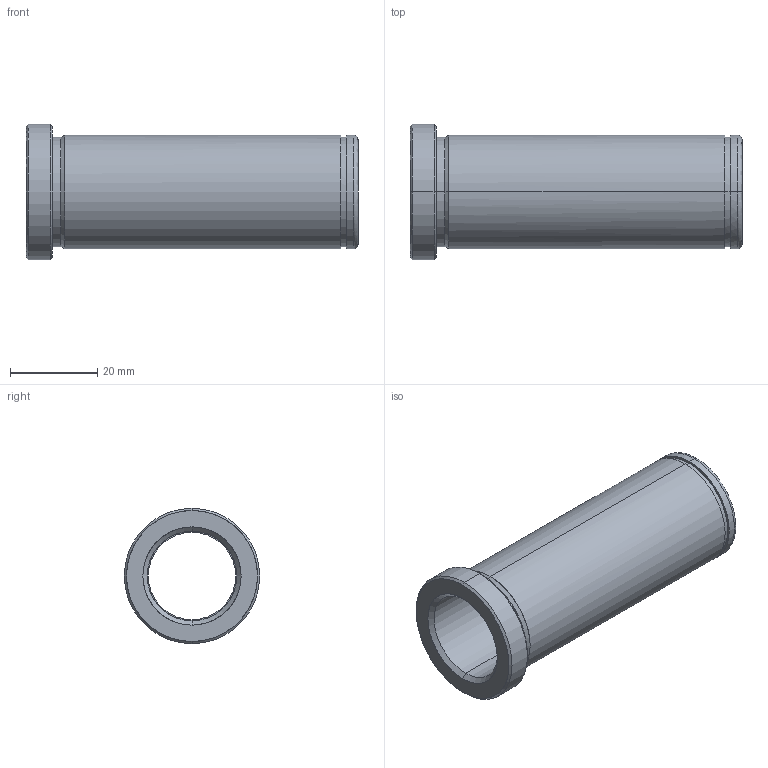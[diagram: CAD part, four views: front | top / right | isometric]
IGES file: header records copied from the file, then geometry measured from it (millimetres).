
Start section: START RECORD GO HERE.
Global section: file name: 553-20X76.igs; native system: DASSAULT SYSTEMES CATIA V5 R20 - www.3ds.com; preprocessor: CATIA Version 5 Release 20 ; author: Utente; organization: NB04-ASUS; date: 20210523.200352; units: millimetre
Bounding box: 76 x 31 x 31 mm (x, y, z)
Surface area: 11940 mm2 (no closed solid volume)
Topology: 0 solids, 0 shells, 32 faces, 204 edges, 204 vertices
Faces by surface type: revolution 26, plane 6
